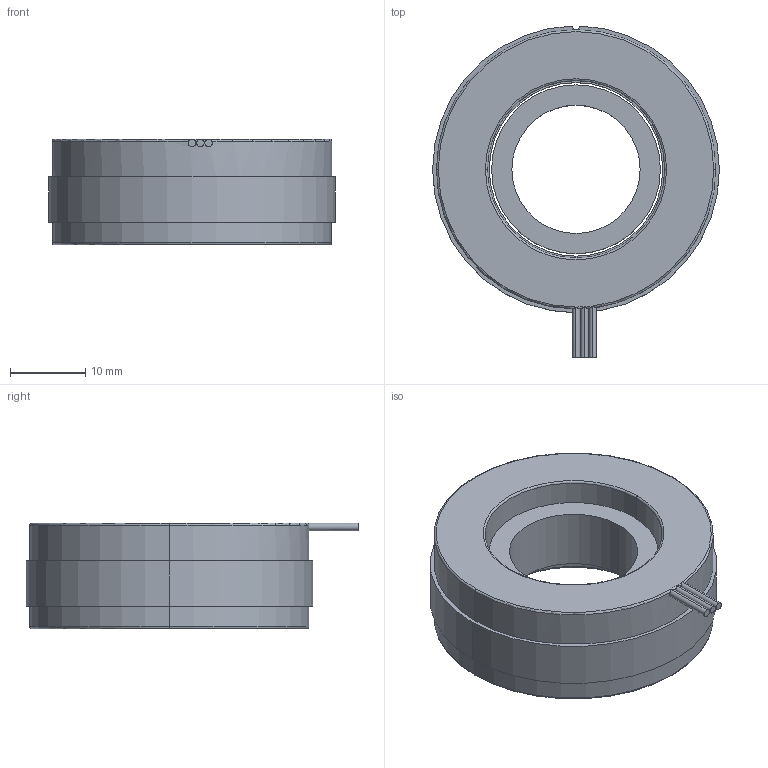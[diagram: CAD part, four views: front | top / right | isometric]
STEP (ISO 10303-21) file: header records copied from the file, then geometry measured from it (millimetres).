
FILE_DESCRIPTION (( 'STEP AP203' ), '1' );
FILE_NAME ('RI30 3D 馱最芞.STEP', '2026-08-13T06:22:38', ( '' ), ( '' ), 'SwSTEP 2.0', 'SolidWorks 2022', '' );
FILE_SCHEMA (( 'CONFIG_CONTROL_DESIGN' ));
Length unit declared in the file: millimetre
Products named in the file (3): C0104000777-T005-3806-内转铁芯-12槽; RI30 3D 工程图; BJJ02030815-RI3806钢圈-加高版
Assembly tree (2 placements, depth 2):
  RI30 3D 工程图
    C0104000777-T005-3806-内转铁芯-12槽
    BJJ02030815-RI3806钢圈-加高版
Bounding box: 38 x 43.99 x 14 mm (x, y, z)
Volume: 10782.8 mm3; surface area: 5453.9 mm2
Topology: 2 solids, 2 shells, 46 faces, 104 edges, 64 vertices
Faces by surface type: cylinder 24, torus 11, plane 11
Entity records: 1685 total; most frequent: CARTESIAN_POINT 307, DIRECTION 262, ORIENTED_EDGE 208, AXIS2_PLACEMENT_3D 119, EDGE_CURVE 104, CIRCLE 68, VERTEX_POINT 64, EDGE_LOOP 52
